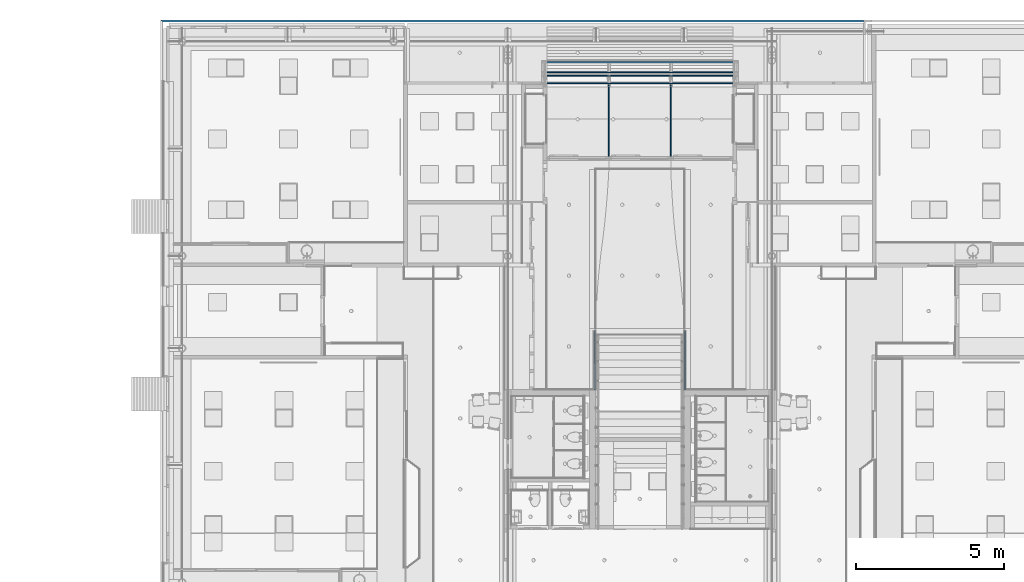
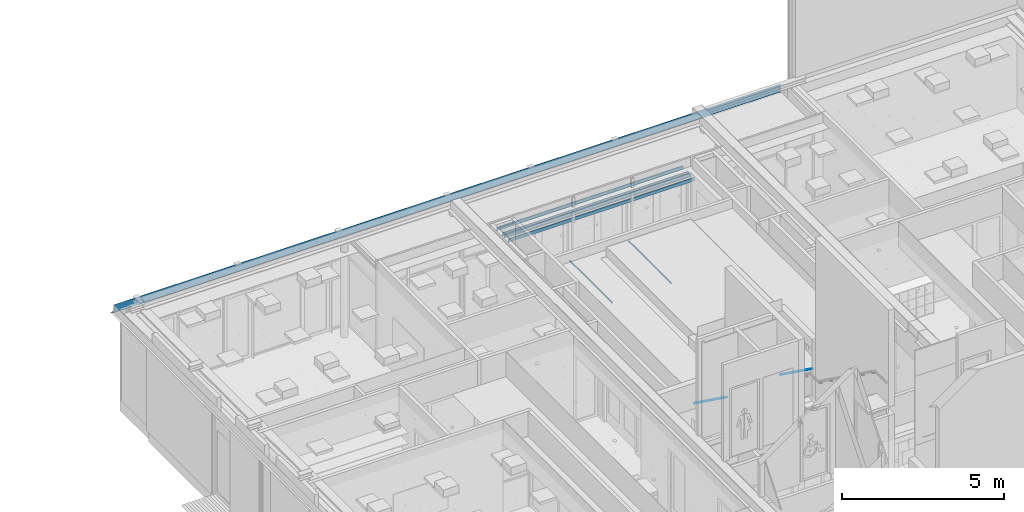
# One storey, part 32 of 347: 9 beams.
"""IFC2X3 building model written with IfcOpenShell, lengths in millimetres."""

from ifc_helpers import new_model, entity, si_unit, converted_unit, derived_unit, money_unit, direction, frame, origin_with_axes, place, context, subcontext, project, spatial, faceted_brep, material, type_object, element, save


model = new_model("IFC2X3")

# Units and contexts
model_context = context("Model", 3, precision=0.01, world=origin_with_axes(), true_north=direction((0.0, 1.0)))
plan_context = context("Plan", 3, precision=0.01, world=origin_with_axes(), true_north=direction((0.0, 1.0)))
body_context = subcontext(model_context, "Body", "Model", "MODEL_VIEW")
ifc_project = project(units=[si_unit("LENGTHUNIT", "METRE", prefix="MILLI"), si_unit("AREAUNIT", "SQUARE_METRE"), si_unit("VOLUMEUNIT", "CUBIC_METRE"), converted_unit("PLANEANGLEUNIT", "DEGREE", entity("IfcPlaneAngleMeasure", 0.0174532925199), si_unit("PLANEANGLEUNIT", "RADIAN"), dimensions=[0, 0, 0, 0, 0, 0, 0]), money_unit("EUR"), converted_unit("TIMEUNIT", "Year", entity("IfcTimeMeasure", 31556926.0), si_unit("TIMEUNIT", "SECOND"), dimensions=[0, 0, 1, 0, 0, 0, 0]), si_unit("MASSUNIT", "GRAM", prefix="KILO"), si_unit("THERMODYNAMICTEMPERATUREUNIT", "DEGREE_CELSIUS"), si_unit("LUMINOUSINTENSITYUNIT", "LUMEN"), si_unit("ENERGYUNIT", "JOULE", prefix="MEGA"), derived_unit("THERMALCONDUCTANCEUNIT", [(si_unit("POWERUNIT", "WATT"), 1), (si_unit("LENGTHUNIT", "METRE"), -1), (si_unit("THERMODYNAMICTEMPERATUREUNIT", "KELVIN"), -1)]), derived_unit("SPECIFICHEATCAPACITYUNIT", [(si_unit("ENERGYUNIT", "JOULE"), 1), (si_unit("MASSUNIT", "GRAM", prefix="KILO"), -1), (si_unit("THERMODYNAMICTEMPERATUREUNIT", "KELVIN"), -1)]), derived_unit("MASSDENSITYUNIT", [(si_unit("MASSUNIT", "GRAM", prefix="KILO"), 1), (si_unit("VOLUMEUNIT", "CUBIC_METRE"), -1)])], contexts=[model_context, plan_context])

# Site, building, storey
site_placement = place(None, origin_with_axes())
site = spatial("IfcSite", under=ifc_project, at=site_placement, Name="Site", CompositionType="ELEMENT")
building_placement = place(site_placement, origin_with_axes())
building = spatial("IfcBuilding", under=site, at=building_placement, Name="Naam gebouw", CompositionType="ELEMENT")
storey_placement = place(building_placement, origin_with_axes())
storey = spatial("IfcBuildingStorey", under=building, at=storey_placement, Name="begane grond", CompositionType="ELEMENT", Elevation=0.0)

# Beams
ifc_material_1 = material(Name="Metaal - RVS")
beam_type_1 = type_object("IfcBeamType", Name="Metaal - RVS 40 x 20", PredefinedType="BEAM")
beam_1_placement = place(storey_placement, frame((38545.0000009, 36789.9999997, 1019.5223339), z_axis=(0.0, 0.0, 1.0), x_axis=(-1.0, 0.0, 0.0)))
element("IfcBeam", 1, at=beam_1_placement, inside=storey, type_object=beam_type_1, material=ifc_material_1, Name="28_Balk-x", ObjectType="BEAM", context=body_context, shape_type="Brep", body=[
    faceted_brep([(-20.0, 1989.99996392, 1420.47766716), (-19.9999990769, 20.0, 2.07766277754), (-19.9999990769, 0.0, 2.07766277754), (-20.0, 0.0, 12.3223375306), (-20.0, 1989.99996392, 1445.12234222), (20.0, 1989.99996392, 1420.47766716), (20.0000009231, 20.0, 2.07766277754), (20.0000009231, 0.0, 2.07766277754), (20.0, 0.0, 12.3223375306), (20.0, 1989.99996392, 1445.12234222)], [[[0, 1, 2, 3, 4]], [[5, 6, 1, 0]], [[6, 7, 2, 1]], [[3, 2, 7, 8]], [[4, 3, 8, 9]], [[4, 9, 5, 0]], [[8, 7, 6, 5, 9]]]),
])
beam_2_placement = place(storey_placement, frame((41604.9999991, 36789.9999997, 1019.5223339), z_axis=(0.0, 0.0, 1.0), x_axis=(-1.0, 0.0, 0.0)))
element("IfcBeam", 2, at=beam_2_placement, inside=storey, type_object=beam_type_1, material=ifc_material_1, Name="28_Balk-x", ObjectType="BEAM", context=body_context, shape_type="Brep", body=[
    faceted_brep([(-20.0, 1989.99996392, 1420.47766716), (-20.0000009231, 20.0, 2.07766277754), (-20.0000009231, 0.0, 2.07766277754), (-20.0, 0.0, 12.3223375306), (-20.0, 1989.99996392, 1445.12234222), (20.0, 1989.99996392, 1420.47766716), (19.9999990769, 20.0, 2.07766277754), (19.9999990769, 0.0, 2.07766277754), (20.0, 0.0, 12.3223375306), (20.0, 1989.99996392, 1445.12234222)], [[[0, 1, 2, 3, 4]], [[5, 6, 1, 0]], [[6, 7, 2, 1]], [[3, 2, 7, 8]], [[4, 3, 8, 9]], [[5, 0, 4, 9]], [[8, 7, 6, 5, 9]]]),
])
ifc_material_2 = material(Name="Metaal - Staal C beige")
beam_type_2 = type_object("IfcBeamType", Name="21 geveldrager (3200+) 75 x 300", PredefinedType="LINTEL")
beam_3_placement = place(storey_placement, frame((47644.9999183, 46887.0, 0.0), z_axis=(0.0, 0.0, 1.0), x_axis=(0.0, 1.0, 0.0)))
element("IfcBeam", 3, at=beam_3_placement, inside=storey, type_object=beam_type_2, material=ifc_material_2, Name="21_21 geveldrager", ObjectType="LINTEL", context=body_context, shape_type="Brep", body=[
    faceted_brep([(430.000000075, 0.0, 3204.99999881), (430.000000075, 23799.9999183, 3204.99999881), (360.0, 23729.9999183, 3204.99999881), (360.0, 0.0, 3204.99999881), (430.000000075, 0.0, 3200.0), (430.000000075, 23799.9999183, 3200.0), (354.999996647, 23724.9999149, 3200.0), (354.999996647, 23724.9999149, 3500.00000119), (360.0, 23729.9999183, 3500.00000119), (360.0, 0.0, 3500.00000119), (354.999996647, 0.0, 3500.00000119), (354.999996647, 0.0, 3200.0)], [[[0, 1, 2, 3]], [[4, 5, 1, 0]], [[2, 1, 5, 6, 7, 8]], [[3, 2, 8, 9]], [[4, 0, 3, 9, 10, 11]], [[11, 6, 5, 4]], [[10, 7, 6, 11]], [[9, 8, 7, 10]]]),
])
ifc_material_3 = material(Name="Metaal - Staal C wit")
beam_type_3 = type_object("IfcBeamType", Name="Metaal - Staal C wit D40", PredefinedType="BEAM")
beam_4_placement = place(storey_placement, frame((41125.0, 42697.5, 1050.0), z_axis=(0.0, 0.0, 1.0), x_axis=(1.0, 0.0, 0.0)))
element("IfcBeam", 4, at=beam_4_placement, inside=storey, type_object=beam_type_3, material=ifc_material_3, Name="28_Balk-x", ObjectType="BEAM", context=body_context, shape_type="Brep", body=[
    faceted_brep([(17.3205080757, 0.0, 10.0), (17.3205080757, 2605.5, 10.0), (10.0, 2605.5, 17.3205080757), (10.0, 0.0, 17.3205080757), (20.0, 0.0, 0.0), (20.0, 2605.5, 0.0), (17.3205080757, 2605.5, -10.0), (10.0, 2605.5, -17.3205080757), (0.0, 2605.5, -20.0), (-10.0, 2605.5, -17.3205080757), (-17.3205080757, 2605.5, -10.0), (-20.0, 2605.5, 0.0), (-17.3205080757, 2605.5, 10.0), (-10.0, 2605.5, 17.3205080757), (0.0, 2605.5, 20.0), (0.0, 0.0, 20.0), (-10.0, 0.0, 17.3205080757), (-17.3205080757, 0.0, 10.0), (-20.0, 0.0, 0.0), (-17.3205080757, 0.0, -10.0), (-10.0, 0.0, -17.3205080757), (0.0, 0.0, -20.0), (10.0, 0.0, -17.3205080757), (17.3205080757, 0.0, -10.0)], [[[0, 1, 2, 3]], [[4, 5, 1, 0]], [[2, 1, 5, 6, 7, 8, 9, 10, 11, 12, 13, 14]], [[3, 2, 14, 15]], [[4, 0, 3, 15, 16, 17, 18, 19, 20, 21, 22, 23]], [[23, 6, 5, 4]], [[22, 7, 6, 23]], [[21, 8, 7, 22]], [[20, 9, 8, 21]], [[19, 10, 9, 20]], [[18, 11, 10, 19]], [[17, 12, 11, 18]], [[16, 13, 12, 17]], [[15, 14, 13, 16]]]),
])
beam_5_placement = place(storey_placement, frame((39025.0, 42697.5, 1050.0), z_axis=(0.0, 0.0, 1.0), x_axis=(1.0, 0.0, 0.0)))
element("IfcBeam", 5, at=beam_5_placement, inside=storey, type_object=beam_type_3, material=ifc_material_3, Name="28_Balk-x", ObjectType="BEAM", context=body_context, shape_type="Brep", body=[
    faceted_brep([(-20.0, 0.0, 0.0), (-20.0, 2605.5, 0.0), (-17.3205080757, 2605.5, -10.0), (-17.3205080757, 0.0, -10.0), (-17.3205080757, 0.0, 10.0), (-17.3205080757, 2605.5, 10.0), (-10.0, 2605.5, 17.3205080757), (0.0, 2605.5, 20.0), (10.0, 2605.5, 17.3205080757), (17.3205080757, 2605.5, 10.0), (20.0, 2605.5, 0.0), (17.3205080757, 2605.5, -10.0), (10.0, 2605.5, -17.3205080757), (0.0, 2605.5, -20.0), (-10.0, 2605.5, -17.3205080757), (-10.0, 0.0, -17.3205080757), (0.0, 0.0, -20.0), (10.0, 0.0, -17.3205080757), (17.3205080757, 0.0, -10.0), (20.0, 0.0, 0.0), (17.3205080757, 0.0, 10.0), (10.0, 0.0, 17.3205080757), (0.0, 0.0, 20.0), (-10.0, 0.0, 17.3205080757)], [[[0, 1, 2, 3]], [[4, 5, 1, 0]], [[2, 1, 5, 6, 7, 8, 9, 10, 11, 12, 13, 14]], [[3, 2, 14, 15]], [[4, 0, 3, 15, 16, 17, 18, 19, 20, 21, 22, 23]], [[23, 6, 5, 4]], [[22, 7, 6, 23]], [[21, 8, 7, 22]], [[20, 9, 8, 21]], [[19, 10, 9, 20]], [[18, 11, 10, 19]], [[17, 12, 11, 18]], [[16, 13, 12, 17]], [[15, 14, 13, 16]]]),
])
ifc_material_4 = material(Name="Hout C")
beam_type_4 = type_object("IfcBeamType", Name="Hout C 38 x 120", PredefinedType="BEAM")
for number, where, z_axis, x_axis, name in (
    (6, (36765.0, 45545.0, 2680.0), (0.0, 0.0, 1.0), (0.0, -1.0, 0.0), "28_Balk-x"),
    (7, (36765.0, 45172.0003615, 2680.0), (0.0, 0.0, 1.0), (0.0, -1.0, 0.0), "28_Balk-x"),
    (8, (36765.0, 45427.0, 2680.0), (0.0, 0.0, 1.0), (0.0, -1.0, 0.0), "28_Balk-x"),
    (9, (36765.0, 45884.9999955, 2680.0), (0.0, 0.0, 1.0), (0.0, -1.0, 0.0), "28_Balk-x"),
):
    element("IfcBeam", number, at=place(storey_placement, frame(where, z_axis=z_axis, x_axis=x_axis)), inside=storey, type_object=beam_type_4, material=ifc_material_4, Name=name, ObjectType="BEAM", context=body_context, shape_type="Brep", body=[
        faceted_brep([(19.0, 0.0, 60.0), (19.0, 6620.0, 60.0), (-19.0, 6620.0, 60.0), (-19.0, 0.0, 60.0), (19.0, 0.0, -60.0), (19.0, 6620.0, -60.0), (-19.0, 6620.0, -60.0), (-19.0, 0.0, -60.0)], [[[0, 1, 2, 3]], [[4, 5, 1, 0]], [[2, 1, 5, 6]], [[3, 2, 6, 7]], [[4, 0, 3, 7]], [[7, 6, 5, 4]]]),
    ])

save(model, "model.ifc")
